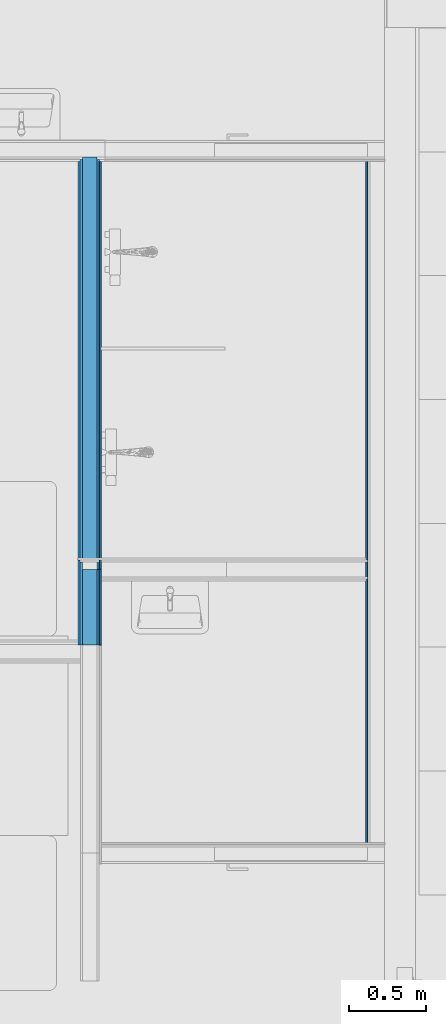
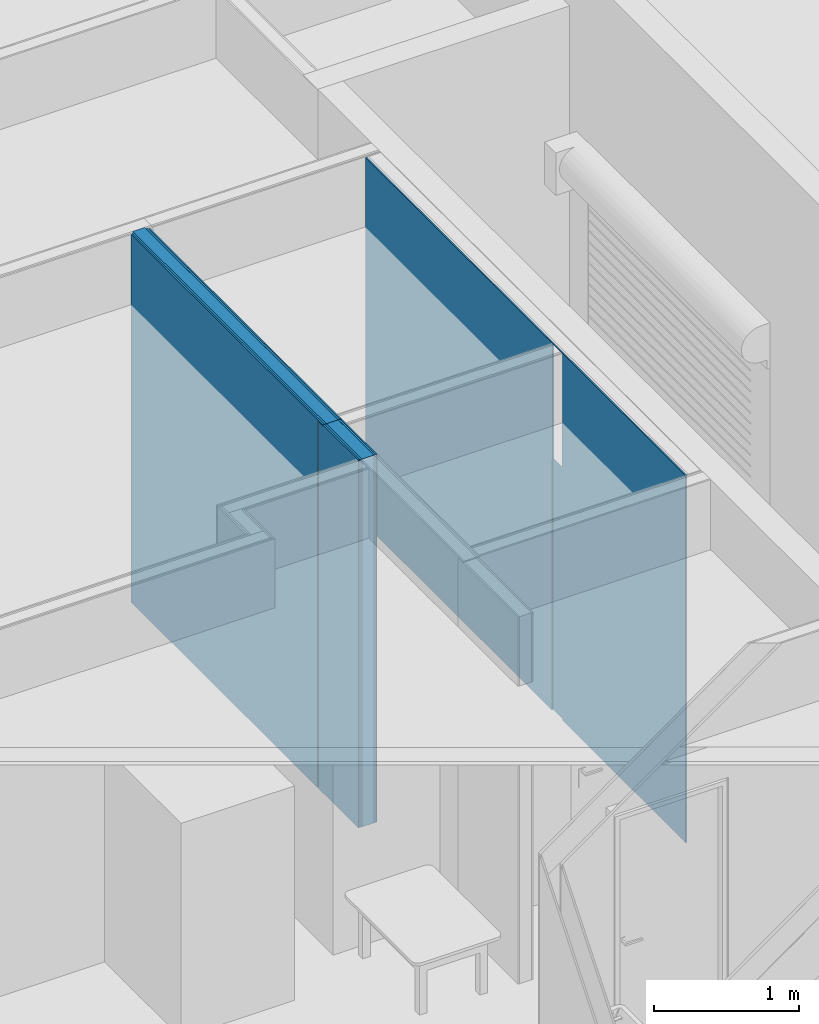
# One storey, part 16 of 67: 11 building element parts, 3 elements without a shape of their own.
"""IFC4 building model written with IfcOpenShell, lengths in millimetres."""

from ifc_helpers import new_model, entity, si_unit, converted_unit, direction, frame, origin, place, context, subcontext, project, spatial, polygons, material, type_object, element, aggregate, save


model = new_model("IFC4")

# Units and contexts
model_context = context("Model", 3, precision=0.01, world=origin(), true_north=direction((0.0, 1.0)))
body_context = subcontext(model_context, "Body", "Model", "MODEL_VIEW")
ifc_project = project(units=[si_unit("LENGTHUNIT", "METRE", prefix="MILLI"), si_unit("AREAUNIT", "SQUARE_METRE"), si_unit("VOLUMEUNIT", "CUBIC_METRE"), converted_unit("PLANEANGLEUNIT", "DEGREE", entity("IfcPlaneAngleMeasure", 0.017453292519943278), si_unit("PLANEANGLEUNIT", "RADIAN"), dimensions=[0, 0, 0, 0, 0, 0, 0])], contexts=[model_context])

# Site, building, storey
site_placement = place(None, origin())
site = spatial("IfcSite", under=ifc_project, at=site_placement, Name="Tomtens navn", CompositionType="ELEMENT")
building_placement = place(site_placement, origin())
building = spatial("IfcBuilding", under=site, at=building_placement, Name="Byggets navn", CompositionType="ELEMENT")
storey_placement = place(building_placement, origin())
storey = spatial("IfcBuildingStorey", under=building, at=storey_placement, Name="Level 01", CompositionType="ELEMENT", Elevation=2.1993652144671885e-25)

# Wall, building element parts
wall_type_1 = type_object("IfcWallType", Name="Basic Wall:IV15 Gips kryssfiner 95 stålstender +15mm kryssfiner+baderomsplater 2", PredefinedType="STANDARD")
wall_1_placement = place(storey_placement, frame((64715.353528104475, 15603.96645692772, 0.0), z_axis=(0.0, 0.0, 1.0), x_axis=(0.0, -1.0, 0.0)))
wall_1 = element("IfcWall", 1, at=wall_1_placement, inside=storey, type_object=wall_type_1, Name="Basic Wall:IV15 Gips kryssfiner 95 stålstender +15mm kryssfiner+baderomsplater 2", PredefinedType="NOTDEFINED")
ifc_material_1 = material(Name="NO_Kryssfiner", Category="Tre")
building_element_part_1_placement = place(wall_1_placement, frame((2635.9208530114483, 48.49999999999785, 0.0)))
building_element_part_1 = element("IfcBuildingElementPart", 2, at=building_element_part_1_placement, material=ifc_material_1, Name="NO_Kryssfiner", context=body_context, shape_type="Tessellation", body=[
    polygons([(-2648.92085301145, 8.984659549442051e-12, 7.331217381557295e-26), (-73.5, 1.2302546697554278e-11, 7.331217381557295e-26), (-73.5, 1.2302546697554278e-11, 3079.9999999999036), (-1.8189894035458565e-12, 1.2397235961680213e-11, 3079.9999999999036), (-1.8189894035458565e-12, 1.2397235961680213e-11, 3087.999999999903), (-2648.92085301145, 8.984659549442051e-12, 3087.999999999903), (-2648.92085301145, 8.984659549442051e-12, 3079.9999999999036), (-2648.92085301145, 15.00000000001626, 7.331217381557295e-26), (-73.5, 15.000000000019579, 7.331217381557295e-26), (-73.5, 15.000000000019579, 3079.9999999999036), (-2648.92085301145, 15.00000000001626, 3079.9999999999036), (-2648.92085301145, 15.00000000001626, 3087.999999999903), (-1.8189894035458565e-12, 15.000000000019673, 3087.999999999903), (-1.8189894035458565e-12, 15.000000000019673, 3079.9999999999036)], [[[1, 2, 3, 4, 5, 6, 7]], [[2, 1, 8, 9]], [[3, 2, 9, 10]], [[9, 8, 11, 12, 13, 14, 10]], [[8, 1, 7, 6, 12, 11]], [[4, 3, 10, 14]], [[4, 14, 13, 5]], [[6, 5, 13, 12]]], closed=True),
])
ifc_material_2 = material(Name="Stender", Category="Unassigned")
building_element_part_2_placement = place(wall_1_placement, frame((2635.9208530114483, -46.49999999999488, 0.0)))
building_element_part_2 = element("IfcBuildingElementPart", 3, at=building_element_part_2_placement, material=ifc_material_2, Name="Stender", context=body_context, shape_type="Tessellation", body=[
    polygons([(-73.5, 95.00000000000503, 7.331217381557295e-26), (-2663.920853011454, 95.00000000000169, 7.331217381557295e-26), (-2663.92085301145, 95.00000000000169, 3079.9999999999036), (-2663.920853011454, 95.00000000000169, 3087.999999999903), (-1.8189894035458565e-12, 95.00000000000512, 3087.999999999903), (-1.8189894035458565e-12, 95.00000000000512, 3079.9999999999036), (-73.5, 95.00000000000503, 3079.9999999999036), (-73.5, 1.2302546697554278e-11, 7.331217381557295e-26), (-2663.920853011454, 8.965335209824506e-12, 7.331217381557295e-26), (-73.5, 1.2302546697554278e-11, 3079.9999999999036), (-1.8189894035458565e-12, 1.2397235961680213e-11, 3079.9999999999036), (-1.8189894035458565e-12, 1.2397235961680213e-11, 3087.999999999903), (-2663.920853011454, 8.965335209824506e-12, 3087.999999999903), (-2663.92085301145, 8.965335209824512e-12, 3079.9999999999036)], [[[1, 2, 3, 4, 5, 6, 7]], [[2, 1, 8, 9]], [[1, 7, 10, 8]], [[9, 8, 10, 11, 12, 13, 14]], [[2, 9, 14, 13, 4, 3]], [[7, 6, 11, 10]], [[11, 6, 5, 12]], [[5, 4, 13, 12]]], closed=True),
])
building_element_part_3_placement = place(wall_1_placement, frame((2635.9208530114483, -61.50000000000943, 0.0)))
building_element_part_3 = element("IfcBuildingElementPart", 4, at=building_element_part_3_placement, material=ifc_material_1, Name="NO_Kryssfiner", context=body_context, shape_type="Tessellation", body=[
    polygons([(-73.5, 15.000000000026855, 7.331217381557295e-26), (-2648.92085301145, 15.000000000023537, 7.331217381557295e-26), (-2648.92085301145, 15.000000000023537, 3079.9999999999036), (-2648.92085301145, 15.000000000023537, 3087.999999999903), (-1.8189894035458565e-12, 15.000000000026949, 3087.999999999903), (-1.8189894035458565e-12, 15.000000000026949, 3079.9999999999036), (-73.5, 15.000000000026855, 3079.9999999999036), (-73.5, 1.9578504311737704e-11, 7.331217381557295e-26), (-2648.92085301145, 1.6260617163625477e-11, 7.331217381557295e-26), (-73.5, 1.9578504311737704e-11, 3079.9999999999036), (-1.8189894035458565e-12, 1.967319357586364e-11, 3079.9999999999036), (-1.8189894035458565e-12, 1.967319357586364e-11, 3087.999999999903), (-2648.92085301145, 1.6260617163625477e-11, 3087.999999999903), (-2648.92085301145, 1.6260617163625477e-11, 3079.9999999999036)], [[[1, 2, 3, 4, 5, 6, 7]], [[2, 1, 8, 9]], [[1, 7, 10, 8]], [[9, 8, 10, 11, 12, 13, 14]], [[2, 9, 14, 13, 4, 3]], [[7, 6, 11, 10]], [[11, 6, 5, 12]], [[5, 4, 13, 12]]], closed=True),
])
ifc_material_3 = material(Name="Gipsplater", Category="NOR ^ Gips")
building_element_part_4_placement = place(wall_1_placement, frame((2635.9208530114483, -74.50000000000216, 0.0)))
building_element_part_4 = element("IfcBuildingElementPart", 5, at=building_element_part_4_placement, material=ifc_material_3, Name="Gipsplater", context=body_context, shape_type="Tessellation", body=[
    polygons([(-73.5, 5.026589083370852e-12, 2.1993652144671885e-25), (-2635.92085301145, 1.7254496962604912e-12, 2.1993652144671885e-25), (-2635.920853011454, 13.000000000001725, 7.331217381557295e-26), (-73.5, 13.000000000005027, 7.331217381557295e-26), (-73.5, 13.000000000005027, 3079.9999999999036), (-73.5, 5.026589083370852e-12, 3079.9999999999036), (-2635.92085301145, 1.7254496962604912e-12, 3079.9999999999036), (-2635.92085301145, 1.7254496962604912e-12, 3087.999999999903), (-2635.920853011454, 13.000000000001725, 3087.999999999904), (-2635.920853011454, 13.000000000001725, 3079.9999999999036), (-1.8189894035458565e-12, 5.121278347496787e-12, 3079.9999999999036), (-1.8189894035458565e-12, 5.121278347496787e-12, 3087.999999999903), (-1.8189894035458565e-12, 13.000000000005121, 3087.999999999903), (-1.8189894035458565e-12, 13.000000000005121, 3079.9999999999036)], [[[1, 2, 3, 4]], [[1, 4, 5, 6]], [[3, 2, 7, 8, 9, 10]], [[2, 1, 6, 11, 12, 8, 7]], [[4, 3, 10, 9, 13, 14, 5]], [[5, 14, 11, 6]], [[11, 14, 13, 12]], [[8, 12, 13, 9]]], closed=True),
])
ifc_material_4 = material(Name="NO_Baderomsplater", Category="Tre")
building_element_part_5_placement = place(wall_1_placement, frame((2635.9208530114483, 63.50000000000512, 0.0)))
building_element_part_5 = element("IfcBuildingElementPart", 6, at=building_element_part_5_placement, material=ifc_material_4, Name="NO_Baderomsplater", context=body_context, shape_type="Tessellation", body=[
    polygons([(-2635.920853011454, 9.00140731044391e-12, 7.331217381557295e-26), (-73.5, 1.2302546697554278e-11, 7.331217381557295e-26), (-73.5, 1.2302546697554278e-11, 3079.9999999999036), (-1.8189894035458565e-12, 1.2397235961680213e-11, 3079.9999999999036), (-1.8189894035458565e-12, 1.2397235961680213e-11, 3087.999999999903), (-2635.920853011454, 9.00140731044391e-12, 3087.999999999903), (-2635.920853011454, 9.00140731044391e-12, 3079.9999999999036), (-2635.92085301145, 11.000000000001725, 2.1993652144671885e-25), (-73.5, 11.000000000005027, 2.1993652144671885e-25), (-73.5, 11.000000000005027, 3079.9999999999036), (-2635.92085301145, 11.000000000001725, 3087.999999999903), (-2635.92085301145, 11.000000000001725, 3079.9999999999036), (-1.8189894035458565e-12, 11.000000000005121, 3087.999999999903), (-1.8189894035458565e-12, 11.000000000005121, 3079.9999999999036)], [[[1, 2, 3, 4, 5, 6, 7]], [[2, 1, 8, 9]], [[3, 2, 9, 10]], [[1, 7, 6, 11, 12, 8]], [[8, 12, 11, 13, 14, 10, 9]], [[4, 3, 10, 14]], [[4, 14, 13, 5]], [[6, 5, 13, 11]]], closed=True),
])
aggregate(wall_1, [building_element_part_1, building_element_part_2, building_element_part_3, building_element_part_4, building_element_part_5])

# Wall, building element part
wall_type_2 = type_object("IfcWallType", Name="Basic Wall:IV11  95 Utforing 15mm kryssfiner baderomsplater 2", PredefinedType="STANDARD")
wall_2_placement = place(storey_placement, frame((66562.35352810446, 11201.466456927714, 0.0), z_axis=(0.0, 0.0, 1.0), x_axis=(0.0, 1.0, 0.0)))
wall_2 = element("IfcWall", 7, at=wall_2_placement, inside=storey, type_object=wall_type_2, Name="Basic Wall:IV11  95 Utforing 15mm kryssfiner baderomsplater 2", PredefinedType="NOTDEFINED")
building_element_part_6_placement = place(wall_2_placement, frame((0.0, 60.500000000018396, 0.0)))
building_element_part_6 = element("IfcBuildingElementPart", 8, at=building_element_part_6_placement, material=ifc_material_4, Name="NO_Baderomsplater", context=body_context, shape_type="Tessellation", body=[
    polygons([(0.0, -10.99999999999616, 7.331217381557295e-26), (4404.500000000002, -11.00000000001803, 7.331217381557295e-26), (4404.500000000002, -11.00000000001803, 3081.346137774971), (3.637978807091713e-12, -10.99999999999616, 3081.346137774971), (1704.0791469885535, -10.99999999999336, 3079.9999999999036), (1829.0791469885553, -10.999999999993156, 3079.9999999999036), (1829.0791469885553, -10.999999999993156, 2109.9999999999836), (1704.0791469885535, -10.99999999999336, 2109.9999999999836), (1.8189894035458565e-12, 3.841062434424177e-12, 3081.346137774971), (4404.500000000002, -3.4785970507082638e-12, 3081.346137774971), (4404.500000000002, -3.4785970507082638e-12, 2.1993652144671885e-25), (1840.0791469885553, 6.862500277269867e-12, 2.1993652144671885e-25), (1840.0791469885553, 6.862500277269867e-12, 2109.9999999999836), (1829.0791469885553, 6.844438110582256e-12, 2109.9999999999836), (1829.0791469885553, 6.844438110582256e-12, 3079.9999999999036), (1704.0791469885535, 6.639186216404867e-12, 3079.9999999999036), (1704.0791469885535, 6.639186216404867e-12, 2109.9999999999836), (1693.0791469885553, 6.621124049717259e-12, 2109.9999999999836), (1693.0791469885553, 6.621124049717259e-12, 2.1993652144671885e-25), (0.0, 3.841062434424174e-12, 2.1993652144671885e-25), (1693.0791469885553, -10.000000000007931, 2.1993652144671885e-25), (1840.0791469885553, -10.00000000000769, 2.1993652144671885e-25), (1693.0791469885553, -10.000000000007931, 2109.9999999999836), (1840.0791469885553, -10.00000000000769, 2109.9999999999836), (1704.0791469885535, -10.000000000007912, 2109.9999999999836), (1829.0791469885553, -10.000000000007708, 2109.9999999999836)], [[[1, 2, 3, 4], [5, 6, 7, 8]], [[9, 10, 11, 12, 13, 14, 15, 16, 17, 18, 19, 20]], [[2, 1, 20, 19, 21, 22, 12, 11]], [[4, 3, 10, 9]], [[3, 2, 11, 10]], [[1, 4, 9, 20]], [[19, 18, 23, 21]], [[13, 12, 22, 24]], [[22, 21, 23, 25, 26, 24]], [[23, 18, 17, 25]], [[26, 7, 6, 15, 14]], [[15, 6, 5, 16]], [[7, 26, 25, 8]], [[8, 25, 17, 16, 5]], [[13, 24, 26, 14]]], closed=True),
])
aggregate(wall_2, [building_element_part_6])

# Wall, building element parts
wall_3_placement = place(storey_placement, frame((64715.35352810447, 12479.106562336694, 0.0), z_axis=(0.0, 0.0, 1.0), x_axis=(0.0, 1.0, 0.0)))
wall_3 = element("IfcWall", 9, at=wall_3_placement, inside=storey, type_object=wall_type_1, Name="Basic Wall:IV15 Gips kryssfiner 95 stålstender +15mm kryssfiner+baderomsplater 2", PredefinedType="NOTDEFINED")
building_element_part_7_placement = place(wall_3_placement, frame((0.0, -48.49999999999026, 0.0)))
building_element_part_7 = element("IfcBuildingElementPart", 10, at=building_element_part_7_placement, material=ifc_material_1, Name="NO_Kryssfiner", context=body_context, shape_type="Tessellation", body=[
    polygons([(426.43904157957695, -3.48333202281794e-12, 7.331217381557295e-26), (1.8189894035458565e-12, -4.810752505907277e-12, 7.331217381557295e-26), (1.8189894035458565e-12, -4.810752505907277e-12, 3079.9999999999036), (1.8189894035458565e-12, -4.810752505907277e-12, 3087.999999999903), (488.93904157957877, -3.2887818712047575e-12, 3087.999999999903), (488.93904157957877, -3.2887818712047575e-12, 3079.9999999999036), (426.43904157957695, -3.48333202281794e-12, 3079.9999999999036), (426.43904157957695, -14.999999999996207, 7.331217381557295e-26), (0.0, -14.999999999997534, 7.331217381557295e-26), (1.8189894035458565e-12, -15.000000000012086, 3079.999999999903), (1.8189894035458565e-12, -14.999999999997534, 3087.999999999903), (426.43904157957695, -14.999999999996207, 3079.9999999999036), (488.93904157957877, -14.999999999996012, 3079.9999999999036), (488.93904157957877, -14.999999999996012, 3087.999999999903)], [[[1, 2, 3, 4, 5, 6, 7]], [[2, 1, 8, 9]], [[3, 2, 9, 10, 11, 4]], [[9, 8, 12, 13, 14, 11, 10]], [[8, 1, 7, 12]], [[6, 13, 12, 7]], [[5, 4, 11, 14]], [[13, 6, 5, 14]]], closed=True),
])
building_element_part_8_placement = place(wall_3_placement, frame((0.0, 46.500000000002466, 0.0)))
building_element_part_8 = element("IfcBuildingElementPart", 11, at=building_element_part_8_placement, material=ifc_material_2, Name="Stender", context=body_context, shape_type="Tessellation", body=[
    polygons([(-1.8189894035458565e-12, -94.99999999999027, 7.331217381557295e-26), (441.43904157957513, -94.99999999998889, 7.331217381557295e-26), (441.43904157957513, -94.99999999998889, 3079.9999999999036), (488.93904157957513, -94.99999999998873, 3079.9999999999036), (488.93904157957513, -94.99999999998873, 3087.999999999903), (-1.8189894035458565e-12, -94.99999999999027, 3087.999999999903), (-1.8189894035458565e-12, -94.99999999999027, 3079.9999999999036), (-1.8189894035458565e-12, 9.741162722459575e-12, 7.331217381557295e-26), (441.43904157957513, 1.1115275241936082e-11, 7.331217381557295e-26), (-1.8189894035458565e-12, 9.741162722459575e-12, 3087.999999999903), (-1.8189894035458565e-12, 9.741162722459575e-12, 3079.9999999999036), (488.93904157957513, 1.1263133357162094e-11, 3087.999999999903), (488.93904157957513, 1.1263133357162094e-11, 3079.9999999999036), (441.43904157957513, 1.1115275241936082e-11, 3079.9999999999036)], [[[1, 2, 3, 4, 5, 6, 7]], [[2, 1, 8, 9]], [[1, 7, 6, 10, 11, 8]], [[9, 8, 11, 10, 12, 13, 14]], [[2, 9, 14, 3]], [[13, 4, 3, 14]], [[6, 5, 12, 10]], [[4, 13, 12, 5]]], closed=True),
])
building_element_part_9_placement = place(wall_3_placement, frame((0.0, 61.500000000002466, 0.0)))
building_element_part_9 = element("IfcBuildingElementPart", 12, at=building_element_part_9_placement, material=ifc_material_1, Name="NO_Kryssfiner", context=body_context, shape_type="Tessellation", body=[
    polygons([(536.439041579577, -14.999999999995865, 3079.9999999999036), (536.439041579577, 4.135033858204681e-12, 3079.9999999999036), (488.93904157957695, 3.987175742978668e-12, 3079.9999999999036), (488.93904157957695, -14.999999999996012, 3079.9999999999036), (0.0, -14.999999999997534, 7.331217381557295e-26), (536.439041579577, -14.999999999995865, 7.331217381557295e-26), (488.93904157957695, -14.999999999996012, 3087.999999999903), (0.0, -14.999999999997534, 3087.999999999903), (0.0, -14.999999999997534, 3079.9999999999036), (0.0, -2.000000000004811, 2.1993652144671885e-25), (0.0, 2.465205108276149e-12, 7.331217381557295e-26), (536.439041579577, 4.135033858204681e-12, 7.331217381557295e-26), (0.0, -2.000000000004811, 3087.999999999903), (0.0, 2.465205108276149e-12, 3087.999999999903), (0.0, 2.465205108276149e-12, 3079.9999999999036), (488.93904157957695, 3.987175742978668e-12, 3087.999999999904)], [[[1, 2, 3, 4]], [[5, 6, 1, 4, 7, 8, 9]], [[6, 5, 10, 11, 12]], [[5, 9, 8, 13, 14, 15, 11, 10]], [[12, 11, 15, 14, 16, 3, 2]], [[6, 12, 2, 1]], [[8, 7, 16, 14, 13]], [[7, 4, 3, 16]]], closed=True),
])
building_element_part_10_placement = place(wall_3_placement, frame((0.0, 74.50000000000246, 0.0)))
building_element_part_10 = element("IfcBuildingElementPart", 13, at=building_element_part_10_placement, material=ifc_material_3, Name="Gipsplater", context=body_context, shape_type="Tessellation", body=[
    polygons([(551.439041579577, -12.999999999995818, 3079.9999999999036), (551.439041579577, 1.1457683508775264e-11, 3079.9999999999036), (488.93904157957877, 1.1263133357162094e-11, 3079.9999999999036), (488.93904157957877, -12.999999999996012, 3079.9999999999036), (32.609894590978, 2.5667132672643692e-12, 2.1993652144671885e-25), (551.439041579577, 1.1457683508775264e-11, 2.1993652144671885e-25), (551.439041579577, -12.999999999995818, 7.331217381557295e-26), (1.8189894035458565e-12, -12.999999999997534, 7.331217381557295e-26), (1.8189894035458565e-12, 9.741162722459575e-12, 1.466243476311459e-25), (1.8189894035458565e-12, -12.999999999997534, 3079.999999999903), (1.8189894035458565e-12, -12.999999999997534, 3087.999999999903), (1.8189894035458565e-12, 9.741162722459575e-12, 3087.999999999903), (1.8189894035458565e-12, 2.465205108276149e-12, 3079.9999999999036), (488.93904157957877, 1.1263133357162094e-11, 3087.999999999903), (488.93904157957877, -12.999999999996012, 3087.999999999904)], [[[1, 2, 3, 4]], [[5, 6, 7, 8, 9]], [[9, 8, 10, 11, 12, 13]], [[6, 5, 9, 13, 12, 14, 3, 2]], [[8, 7, 1, 4, 15, 11, 10]], [[6, 2, 1, 7]], [[11, 15, 14, 12]], [[15, 4, 3, 14]]], closed=True),
])
building_element_part_11_placement = place(wall_3_placement, frame((0.0, -63.50000000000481, 0.0)))
building_element_part_11 = element("IfcBuildingElementPart", 14, at=building_element_part_11_placement, material=ifc_material_4, Name="NO_Baderomsplater", context=body_context, shape_type="Tessellation", body=[
    polygons([(415.43904157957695, 1.8310299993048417e-11, 7.331217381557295e-26), (0.0, 1.7017120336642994e-11, 7.331217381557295e-26), (1.8189894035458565e-12, 2.465205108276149e-12, 3079.9999999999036), (0.0, 1.7017120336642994e-11, 3087.999999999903), (488.93904157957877, 1.853909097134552e-11, 3087.999999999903), (488.93904157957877, 1.853909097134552e-11, 3079.9999999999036), (415.43904157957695, 1.8310299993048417e-11, 3079.9999999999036), (415.43904157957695, -10.999999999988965, 2.1993652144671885e-25), (1.8189894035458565e-12, -10.999999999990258, 1.466243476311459e-25), (1.8189894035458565e-12, -10.999999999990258, 3079.9999999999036), (1.8189894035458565e-12, -10.999999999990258, 3087.999999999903), (415.43904157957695, -10.999999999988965, 3079.9999999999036), (488.93904157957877, -10.999999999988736, 3079.9999999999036), (488.93904157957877, -10.999999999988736, 3087.999999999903)], [[[1, 2, 3, 4, 5, 6, 7]], [[2, 1, 8, 9]], [[3, 2, 9, 10, 11, 4]], [[1, 7, 12, 8]], [[10, 9, 8, 12, 13, 14, 11]], [[7, 6, 13, 12]], [[5, 4, 11, 14]], [[13, 6, 5, 14]]], closed=True),
])
aggregate(wall_3, [building_element_part_7, building_element_part_8, building_element_part_9, building_element_part_10, building_element_part_11])

save(model, "model.ifc")
